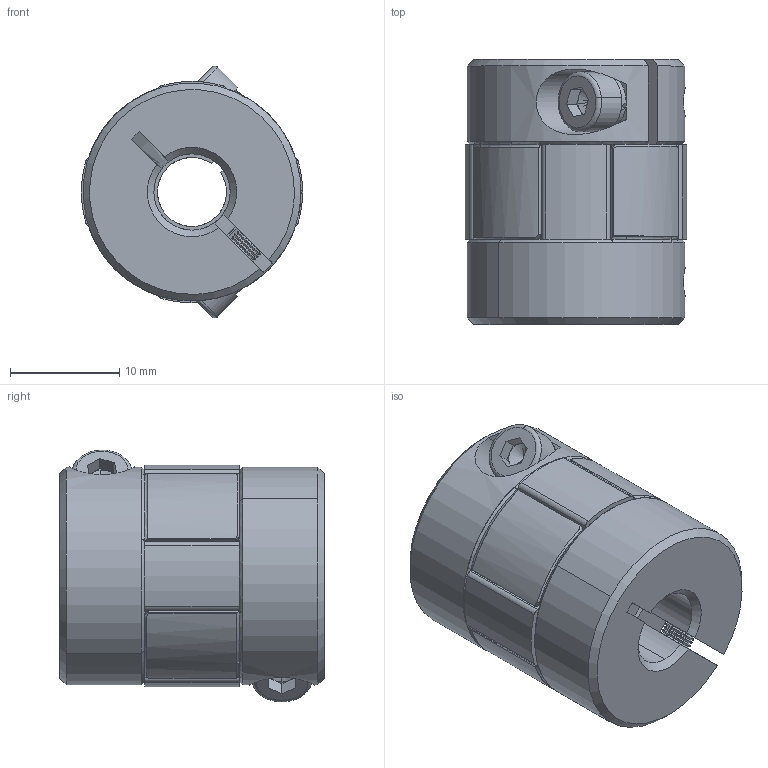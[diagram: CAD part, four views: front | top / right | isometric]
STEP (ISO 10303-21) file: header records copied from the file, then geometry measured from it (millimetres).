
FILE_DESCRIPTION (( 'STEP AP203' ), '1' );
FILE_NAME ('LF-B-D20L25-6.35-7.STEP', '2021-10-20T01:51:02', ( '' ), ( '' ), 'SwSTEP 2.0', 'SolidWorks 2018', '' );
FILE_SCHEMA (( 'CONFIG_CONTROL_DESIGN' ));
Length unit declared in the file: millimetre
Products named in the file (1): LF-B-D20L25-6.35-7
Bounding box: 20.31 x 24.3 x 23.09 mm (x, y, z)
Volume: 6496.6 mm3; surface area: 3564.4 mm2
Topology: 1 solids, 1 shells, 428 faces, 1069 edges, 633 vertices
Faces by surface type: cylinder 165, cone 158, plane 93, torus 12
Entity records: 13093 total; most frequent: CARTESIAN_POINT 2714, DIRECTION 2316, ORIENTED_EDGE 2130, EDGE_CURVE 1065, AXIS2_PLACEMENT_3D 953, VERTEX_POINT 633, CIRCLE 524, EDGE_LOOP 444
